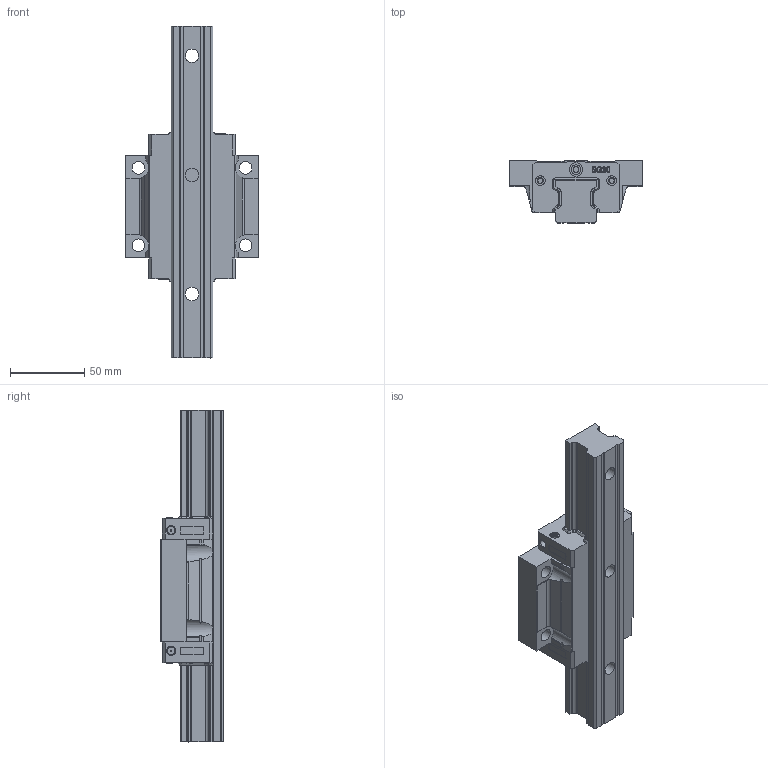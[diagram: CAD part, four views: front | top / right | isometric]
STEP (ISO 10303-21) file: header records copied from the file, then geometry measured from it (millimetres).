
FILE_DESCRIPTION(/* description */ (''),/* implementation_level */ '2;1');
FILE_NAME(/* name */ 'SGH30A.stp',/* time_stamp */ '2021-05-27T16:18:00+08:00',/* author */ (''),/* organization */ (''),/* preprocessor_version */ 'ST-DEVELOPER v15',/* originating_system */ 'SIEMENS PLM Software NX 8.5',/* authorisation */ '');
FILE_SCHEMA (('CONFIG_CONTROL_DESIGN'));
Length unit declared in the file: millimetre
Products named in the file (1): SGH30A
Bounding box: 90 x 42 x 223 mm (x, y, z)
Volume: 326164.2 mm3; surface area: 65222.2 mm2
Topology: 2 solids, 2 shells, 507 faces, 1392 edges, 932 vertices
Faces by surface type: plane 221, extrusion 122, cylinder 117, cone 47
Full cylindrical faces by diameter (mm): 1 x4, 3.5 x4, 4 x2, 4.1 x4, 5.2 x4, 6.5 x6, 8.5 x4, 9 x3, 9.1 x2, 14 x3
Entity records: 17905 total; most frequent: CARTESIAN_POINT 5627, ORIENTED_EDGE 2636, DIRECTION 2179, EDGE_CURVE 1318, VERTEX_POINT 905, VECTOR 813, LINE 691, AXIS2_PLACEMENT_3D 683
